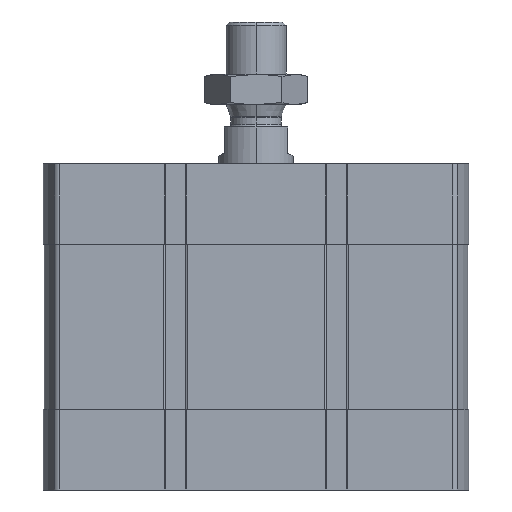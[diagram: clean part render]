
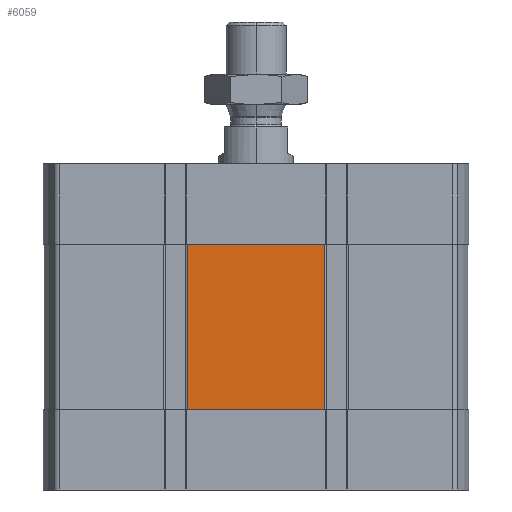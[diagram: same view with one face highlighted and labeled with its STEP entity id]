
A CAD part, left-side view. The second image highlights one B-rep face of the part: STEP entity #6059.
In plain terms, the highlighted planar face has unit normal (-1, 0, 0).
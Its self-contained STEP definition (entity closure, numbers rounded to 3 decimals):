
#178 = CARTESIAN_POINT ( 'NONE',  ( -56.5, -18.345, -21.5 ) ) ;
#209 = PLANE ( 'NONE',  #3548 ) ;
#322 = VERTEX_POINT ( 'NONE', #6276 ) ;
#1404 = EDGE_CURVE ( 'NONE', #1619, #4802, #16160, .T. ) ;
#1619 = VERTEX_POINT ( 'NONE', #9473 ) ;
#3031 = LINE ( 'NONE', #4948, #20065 ) ;
#3124 = DIRECTION ( 'NONE',  ( 0., 0., 1. ) ) ;
#3136 = VECTOR ( 'NONE', #5332, 1000. ) ;
#3548 = AXIS2_PLACEMENT_3D ( 'NONE', #14709, #21245, #3124 ) ;
#4404 = CARTESIAN_POINT ( 'NONE',  ( -56.5, 18.345, -65.5 ) ) ;
#4501 = ORIENTED_EDGE ( 'NONE', *, *, #6297, .F. ) ;
#4802 = VERTEX_POINT ( 'NONE', #178 ) ;
#4948 = CARTESIAN_POINT ( 'NONE',  ( -56.5, 18.345, -65.5 ) ) ;
#5332 = DIRECTION ( 'NONE',  ( 0., -1., 0. ) ) ;
#6059 = ADVANCED_FACE ( 'NONE', ( #9673 ), #209, .T. ) ;
#6264 = VECTOR ( 'NONE', #16047, 1000. ) ;
#6276 = CARTESIAN_POINT ( 'NONE',  ( -56.5, 18.345, -21.5 ) ) ;
#6297 = EDGE_CURVE ( 'NONE', #10716, #322, #7499, .T. ) ;
#6644 = VECTOR ( 'NONE', #15767, 1000. ) ;
#7499 = LINE ( 'NONE', #10935, #6644 ) ;
#7982 = ORIENTED_EDGE ( 'NONE', *, *, #1404, .T. ) ;
#8767 = LINE ( 'NONE', #11874, #3136 ) ;
#9473 = CARTESIAN_POINT ( 'NONE',  ( -56.5, -18.345, -65.5 ) ) ;
#9496 = CARTESIAN_POINT ( 'NONE',  ( -56.5, -18.345, -65.5 ) ) ;
#9641 = ORIENTED_EDGE ( 'NONE', *, *, #17432, .T. ) ;
#9673 = FACE_OUTER_BOUND ( 'NONE', #19162, .T. ) ;
#10716 = VERTEX_POINT ( 'NONE', #4404 ) ;
#10935 = CARTESIAN_POINT ( 'NONE',  ( -56.5, 18.345, -65.5 ) ) ;
#11874 = CARTESIAN_POINT ( 'NONE',  ( -56.5, 18.345, -21.5 ) ) ;
#12695 = DIRECTION ( 'NONE',  ( 0., -1., 0. ) ) ;
#14709 = CARTESIAN_POINT ( 'NONE',  ( -56.5, 18.345, -65.5 ) ) ;
#15767 = DIRECTION ( 'NONE',  ( 0., 0., 1. ) ) ;
#16047 = DIRECTION ( 'NONE',  ( 0., 0., 1. ) ) ;
#16160 = LINE ( 'NONE', #9496, #6264 ) ;
#17432 = EDGE_CURVE ( 'NONE', #10716, #1619, #3031, .T. ) ;
#18387 = ORIENTED_EDGE ( 'NONE', *, *, #19650, .F. ) ;
#19162 = EDGE_LOOP ( 'NONE', ( #18387, #4501, #9641, #7982 ) ) ;
#19650 = EDGE_CURVE ( 'NONE', #322, #4802, #8767, .T. ) ;
#20065 = VECTOR ( 'NONE', #12695, 1000. ) ;
#21245 = DIRECTION ( 'NONE',  ( -1., 0., 0. ) ) ;
